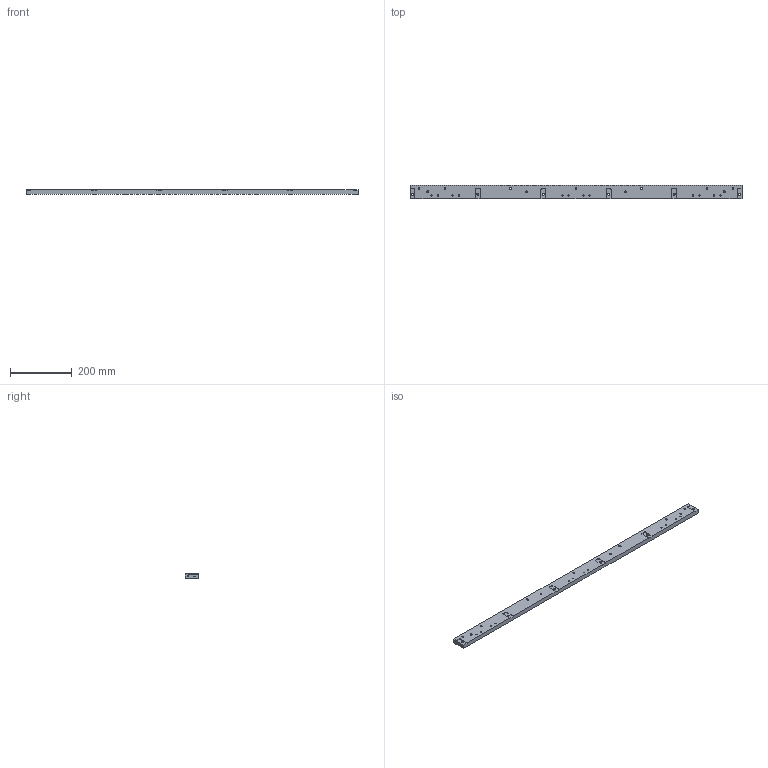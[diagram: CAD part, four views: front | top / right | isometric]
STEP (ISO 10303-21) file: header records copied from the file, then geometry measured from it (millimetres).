
FILE_DESCRIPTION(('STEP AP203'), '1');
FILE_NAME('ÒÏÏÔ1801.01.03.00.004-1 - Îñíîâàíèå ðàêåëÿ', '', ('UNSPECIFIED'), ('UNSPECIFIED'), 'C3D Converter', 'C3D Toolkit', '');
FILE_SCHEMA(('CONFIG_CONTROL_DESIGN'));
Length unit declared in the file: millimetre
Products named in the file (1): ТППФ1801.01.03.00.004-1
Bounding box: 1076 x 45 x 15 mm (x, y, z)
Volume: 709690.6 mm3; surface area: 136448.1 mm2
Topology: 1 solids, 1 shells, 138 faces, 354 edges, 224 vertices
Faces by surface type: cylinder 54, plane 48, cone 36
Full cylindrical faces by diameter (mm): 3.242 x14, 4.134 x4, 6.5 x6, 11 x6
Entity records: 4880 total; most frequent: DIRECTION 674, CARTESIAN_POINT 615, ORIENTED_EDGE 540, EDGE_CURVE 270, AXIS2_PLACEMENT_3D 265, EDGE_LOOP 236, VERTEX_POINT 206, LINE 144
